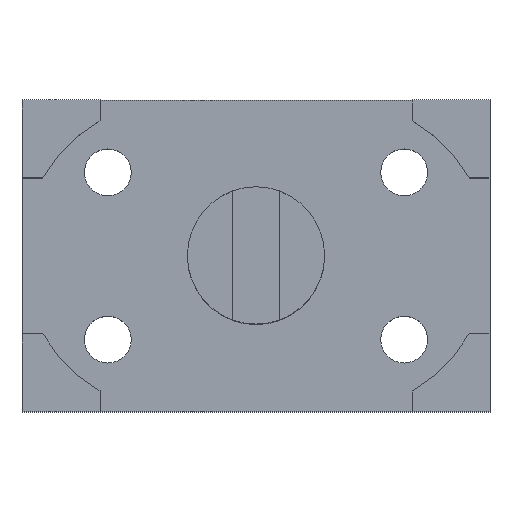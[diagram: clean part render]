
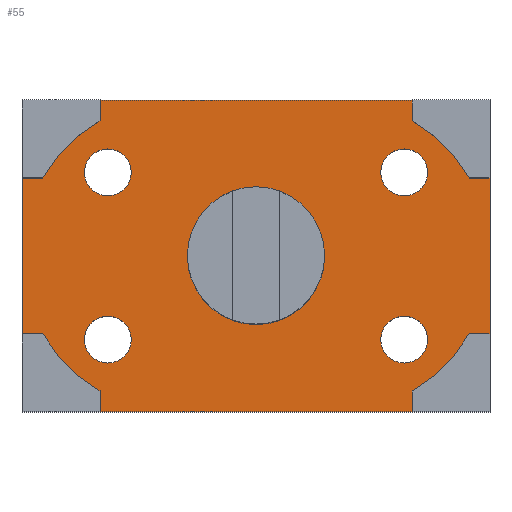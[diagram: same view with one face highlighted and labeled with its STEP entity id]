
A CAD part, top view. The second image highlights one B-rep face of the part: STEP entity #55.
In plain terms, the highlighted planar face has unit normal (0, 0, 1).
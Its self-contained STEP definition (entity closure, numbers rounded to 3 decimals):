
#55=ADVANCED_FACE('',(#108,#110,#112,#114,#116,#118),#120,.T.);
#108=FACE_BOUND('',#109,.T.);
#109=EDGE_LOOP('',(#365,#366,#367,#368,#369,#370,#371,#372,#373,#374,#375,#376,#377,
#378,#379,#380));
#110=FACE_BOUND('',#111,.T.);
#111=EDGE_LOOP('',(#381));
#112=FACE_BOUND('',#113,.T.);
#113=EDGE_LOOP('',(#382));
#114=FACE_BOUND('',#115,.T.);
#115=EDGE_LOOP('',(#383));
#116=FACE_BOUND('',#117,.T.);
#117=EDGE_LOOP('',(#384));
#118=FACE_BOUND('',#119,.T.);
#119=EDGE_LOOP('',(#385));
#120=PLANE('',#121);
#121=AXIS2_PLACEMENT_3D('',#122,#123,#124);
#122=CARTESIAN_POINT('',(0.,0.,20.));
#123=DIRECTION('',(0.,0.,1.));
#124=DIRECTION('',(-1.,0.,0.));
#365=ORIENTED_EDGE('',*,*,#531,.F.);
#366=ORIENTED_EDGE('',*,*,#532,.F.);
#367=ORIENTED_EDGE('',*,*,#533,.F.);
#368=ORIENTED_EDGE('',*,*,#534,.T.);
#369=ORIENTED_EDGE('',*,*,#535,.F.);
#370=ORIENTED_EDGE('',*,*,#536,.F.);
#371=ORIENTED_EDGE('',*,*,#537,.F.);
#372=ORIENTED_EDGE('',*,*,#538,.T.);
#373=ORIENTED_EDGE('',*,*,#539,.F.);
#374=ORIENTED_EDGE('',*,*,#540,.F.);
#375=ORIENTED_EDGE('',*,*,#541,.F.);
#376=ORIENTED_EDGE('',*,*,#542,.T.);
#377=ORIENTED_EDGE('',*,*,#543,.F.);
#378=ORIENTED_EDGE('',*,*,#544,.F.);
#379=ORIENTED_EDGE('',*,*,#545,.F.);
#380=ORIENTED_EDGE('',*,*,#546,.T.);
#381=ORIENTED_EDGE('',*,*,#528,.F.);
#382=ORIENTED_EDGE('',*,*,#547,.T.);
#383=ORIENTED_EDGE('',*,*,#548,.T.);
#384=ORIENTED_EDGE('',*,*,#549,.T.);
#385=ORIENTED_EDGE('',*,*,#550,.T.);
#528=EDGE_CURVE('',#621,#621,#622,.T.);
#531=EDGE_CURVE('',#627,#628,#629,.F.);
#532=EDGE_CURVE('',#630,#627,#631,.F.);
#533=EDGE_CURVE('',#632,#630,#633,.F.);
#534=EDGE_CURVE('',#632,#634,#635,.T.);
#535=EDGE_CURVE('',#636,#634,#637,.T.);
#536=EDGE_CURVE('',#638,#636,#639,.T.);
#537=EDGE_CURVE('',#640,#638,#641,.T.);
#538=EDGE_CURVE('',#640,#642,#643,.T.);
#539=EDGE_CURVE('',#644,#642,#645,.F.);
#540=EDGE_CURVE('',#646,#644,#647,.F.);
#541=EDGE_CURVE('',#648,#646,#649,.F.);
#542=EDGE_CURVE('',#648,#650,#651,.T.);
#543=EDGE_CURVE('',#652,#650,#653,.T.);
#544=EDGE_CURVE('',#654,#652,#655,.T.);
#545=EDGE_CURVE('',#656,#654,#657,.T.);
#546=EDGE_CURVE('',#656,#628,#658,.T.);
#547=EDGE_CURVE('',#659,#659,#660,.F.);
#548=EDGE_CURVE('',#661,#661,#662,.F.);
#549=EDGE_CURVE('',#663,#663,#664,.F.);
#550=EDGE_CURVE('',#665,#665,#666,.F.);
#621=VERTEX_POINT('',#788);
#622=CIRCLE('',#789,22.);
#627=VERTEX_POINT('',#935);
#628=VERTEX_POINT('',#936);
#629=LINE('',#937,#938);
#630=VERTEX_POINT('',#940);
#631=CIRCLE('',#941,50.);
#632=VERTEX_POINT('',#945);
#633=LINE('',#946,#947);
#634=VERTEX_POINT('',#949);
#635=LINE('',#950,#951);
#636=VERTEX_POINT('',#953);
#637=LINE('',#954,#955);
#638=VERTEX_POINT('',#957);
#639=CIRCLE('',#958,50.);
#640=VERTEX_POINT('',#962);
#641=LINE('',#963,#964);
#642=VERTEX_POINT('',#966);
#643=LINE('',#967,#968);
#644=VERTEX_POINT('',#970);
#645=LINE('',#971,#972);
#646=VERTEX_POINT('',#974);
#647=CIRCLE('',#975,50.);
#648=VERTEX_POINT('',#979);
#649=LINE('',#980,#981);
#650=VERTEX_POINT('',#983);
#651=LINE('',#984,#985);
#652=VERTEX_POINT('',#987);
#653=LINE('',#988,#989);
#654=VERTEX_POINT('',#991);
#655=CIRCLE('',#992,50.);
#656=VERTEX_POINT('',#996);
#657=LINE('',#997,#998);
#658=LINE('',#1000,#1001);
#659=VERTEX_POINT('',#1003);
#660=CIRCLE('',#1004,7.5);
#661=VERTEX_POINT('',#1008);
#662=CIRCLE('',#1009,7.5);
#663=VERTEX_POINT('',#1013);
#664=CIRCLE('',#1014,7.5);
#665=VERTEX_POINT('',#1018);
#666=CIRCLE('',#1019,7.5);
#788=CARTESIAN_POINT('',(-22.,0.,20.));
#789=AXIS2_PLACEMENT_3D('',#790,#791,#792);
#790=CARTESIAN_POINT('',(0.,0.,20.));
#791=DIRECTION('',(0.,0.,1.));
#792=DIRECTION('',(-1.,0.,0.));
#935=CARTESIAN_POINT('',(-68.301,-25.,20.));
#936=CARTESIAN_POINT('',(-75.,-25.,20.));
#937=CARTESIAN_POINT('',(-75.,-25.,20.));
#938=VECTOR('',#939,1.);
#939=DIRECTION('',(1.,0.,0.));
#940=CARTESIAN_POINT('',(-50.,-43.301,20.));
#941=AXIS2_PLACEMENT_3D('',#942,#943,#944);
#942=CARTESIAN_POINT('',(-25.,0.,20.));
#943=DIRECTION('',(0.,0.,1.));
#944=DIRECTION('',(-0.866,-0.5,0.));
#945=CARTESIAN_POINT('',(-50.,-50.,20.));
#946=CARTESIAN_POINT('',(-50.,-43.301,20.));
#947=VECTOR('',#948,1.);
#948=DIRECTION('',(0.,-1.,0.));
#949=CARTESIAN_POINT('',(50.,-50.,20.));
#950=CARTESIAN_POINT('',(-50.,-50.,20.));
#951=VECTOR('',#952,1.);
#952=DIRECTION('',(1.,0.,0.));
#953=CARTESIAN_POINT('',(50.,-43.301,20.));
#954=CARTESIAN_POINT('',(50.,-43.301,20.));
#955=VECTOR('',#956,1.);
#956=DIRECTION('',(0.,-1.,0.));
#957=CARTESIAN_POINT('',(68.301,-25.,20.));
#958=AXIS2_PLACEMENT_3D('',#959,#960,#961);
#959=CARTESIAN_POINT('',(25.,0.,20.));
#960=DIRECTION('',(0.,0.,-1.));
#961=DIRECTION('',(0.866,-0.5,0.));
#962=CARTESIAN_POINT('',(75.,-25.,20.));
#963=CARTESIAN_POINT('',(75.,-25.,20.));
#964=VECTOR('',#965,1.);
#965=DIRECTION('',(-1.,0.,0.));
#966=CARTESIAN_POINT('',(75.,25.,20.));
#967=CARTESIAN_POINT('',(75.,-25.,20.));
#968=VECTOR('',#969,1.);
#969=DIRECTION('',(0.,1.,0.));
#970=CARTESIAN_POINT('',(68.301,25.,20.));
#971=CARTESIAN_POINT('',(75.,25.,20.));
#972=VECTOR('',#973,1.);
#973=DIRECTION('',(-1.,0.,0.));
#974=CARTESIAN_POINT('',(50.,43.301,20.));
#975=AXIS2_PLACEMENT_3D('',#976,#977,#978);
#976=CARTESIAN_POINT('',(25.,0.,20.));
#977=DIRECTION('',(0.,0.,1.));
#978=DIRECTION('',(0.866,0.5,0.));
#979=CARTESIAN_POINT('',(50.,50.,20.));
#980=CARTESIAN_POINT('',(50.,43.301,20.));
#981=VECTOR('',#982,1.);
#982=DIRECTION('',(0.,1.,0.));
#983=CARTESIAN_POINT('',(-50.,50.,20.));
#984=CARTESIAN_POINT('',(50.,50.,20.));
#985=VECTOR('',#986,1.);
#986=DIRECTION('',(-1.,0.,0.));
#987=CARTESIAN_POINT('',(-50.,43.301,20.));
#988=CARTESIAN_POINT('',(-50.,43.301,20.));
#989=VECTOR('',#990,1.);
#990=DIRECTION('',(0.,1.,0.));
#991=CARTESIAN_POINT('',(-68.301,25.,20.));
#992=AXIS2_PLACEMENT_3D('',#993,#994,#995);
#993=CARTESIAN_POINT('',(-25.,0.,20.));
#994=DIRECTION('',(0.,0.,-1.));
#995=DIRECTION('',(-0.866,0.5,0.));
#996=CARTESIAN_POINT('',(-75.,25.,20.));
#997=CARTESIAN_POINT('',(-75.,25.,20.));
#998=VECTOR('',#999,1.);
#999=DIRECTION('',(1.,0.,0.));
#1000=CARTESIAN_POINT('',(-75.,25.,20.));
#1001=VECTOR('',#1002,1.);
#1002=DIRECTION('',(0.,-1.,0.));
#1003=CARTESIAN_POINT('',(39.998,26.812,20.));
#1004=AXIS2_PLACEMENT_3D('',#1005,#1006,#1007);
#1005=CARTESIAN_POINT('',(47.498,26.812,20.));
#1006=DIRECTION('',(0.,0.,1.));
#1007=DIRECTION('',(-1.,0.,0.));
#1008=CARTESIAN_POINT('',(39.998,-26.812,20.));
#1009=AXIS2_PLACEMENT_3D('',#1010,#1011,#1012);
#1010=CARTESIAN_POINT('',(47.498,-26.812,20.));
#1011=DIRECTION('',(0.,0.,1.));
#1012=DIRECTION('',(-1.,0.,0.));
#1013=CARTESIAN_POINT('',(-39.998,26.812,20.));
#1014=AXIS2_PLACEMENT_3D('',#1015,#1016,#1017);
#1015=CARTESIAN_POINT('',(-47.498,26.812,20.));
#1016=DIRECTION('',(0.,0.,1.));
#1017=DIRECTION('',(1.,0.,0.));
#1018=CARTESIAN_POINT('',(-39.998,-26.812,20.));
#1019=AXIS2_PLACEMENT_3D('',#1020,#1021,#1022);
#1020=CARTESIAN_POINT('',(-47.498,-26.812,20.));
#1021=DIRECTION('',(0.,0.,1.));
#1022=DIRECTION('',(1.,0.,0.));
